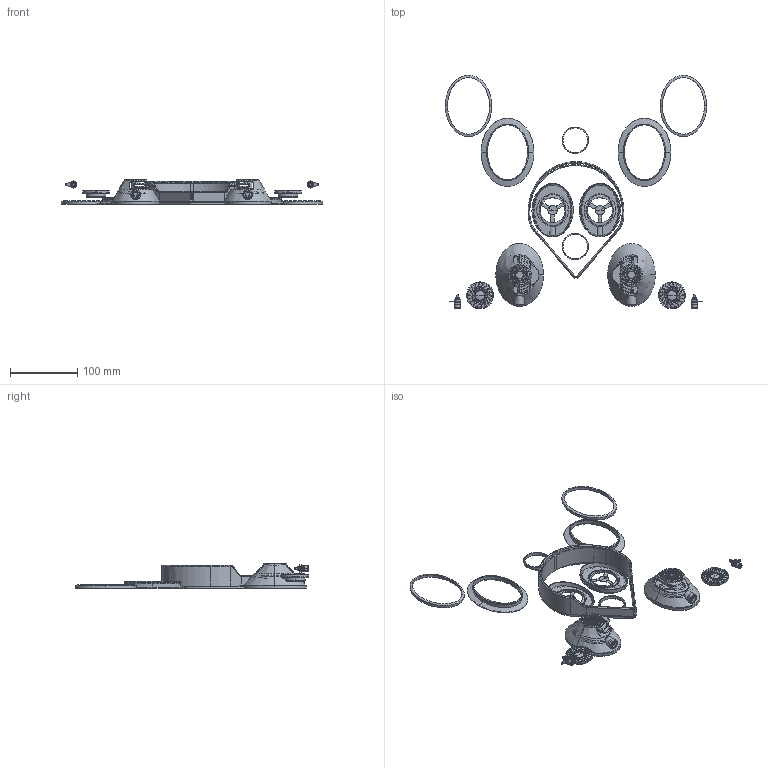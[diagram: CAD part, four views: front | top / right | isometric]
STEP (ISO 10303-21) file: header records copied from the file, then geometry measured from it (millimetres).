
FILE_DESCRIPTION(/* description */ ('Generated from Alias Stage'),/* implementation_level */ '2;1');
FILE_NAME(/* name */ '1330_printableHeadphone_V1',/* time_stamp */ '2013-09-12T10:40:22-07:00',/* author */ (''),/* organization */ ('Autodesk Alias'),/* preprocessor_version */ 'ST-DEVELOPER v12',/* originating_system */ 'Autodesk OpenModel 2013',/* authorisation */ '');
FILE_SCHEMA (('AUTOMOTIVE_DESIGN { 1 2 10303 214 1 1 1 1 }'));
Products named in the file (1): 1330_printableHeadphone_V1
Bounding box: 389.87 x 348.25 x 36.73 mm (x, y, z)
Volume: 67310.2 mm3; surface area: 160653.3 mm2
Topology: 14 solids, 29 shells, 1299 faces, 3543 edges, 2237 vertices
Faces by surface type: bspline 1299
Entity records: 65256 total; most frequent: CARTESIAN_POINT 48179, ORIENTED_EDGE 6934, EDGE_CURVE 3531, VERTEX_POINT 2354, EDGE_LOOP 1424, FACE_OUTER_BOUND 1299, ADVANCED_FACE 1299, FACE_BOUND 125
